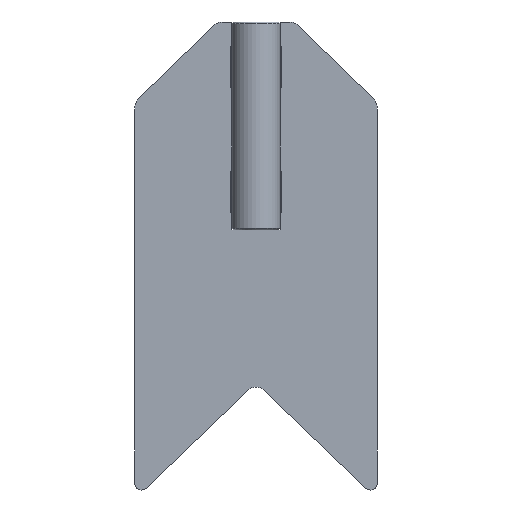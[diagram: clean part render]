
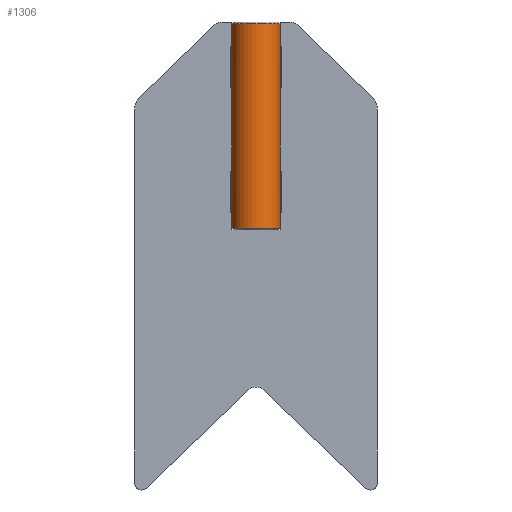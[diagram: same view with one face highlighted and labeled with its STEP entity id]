
A CAD part, left-side view. The second image highlights one B-rep face of the part: STEP entity #1306.
In plain terms, the highlighted cylindrical face has radius 7 mm (diameter 14 mm), a partial arc.
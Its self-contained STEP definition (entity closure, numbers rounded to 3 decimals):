
#34=CYLINDRICAL_SURFACE('',#1420,7.);
#69=CIRCLE('',#1421,7.);
#70=CIRCLE('',#1422,7.);
#71=CIRCLE('',#1423,7.);
#72=CIRCLE('',#1424,7.);
#73=CIRCLE('',#1425,7.);
#74=CIRCLE('',#1426,7.);
#75=CIRCLE('',#1427,7.);
#76=CIRCLE('',#1428,7.);
#77=CIRCLE('',#1429,7.);
#78=CIRCLE('',#1430,7.);
#117=FACE_OUTER_BOUND('',#177,.T.);
#177=EDGE_LOOP('',(#1016,#1017,#1018,#1019,#1020,#1021,#1022,#1023,#1024,
#1025,#1026,#1027,#1028,#1029,#1030,#1031,#1032,#1033,#1034,#1035,#1036,
#1037,#1038,#1039));
#219=LINE('',#1851,#355);
#260=LINE('',#1945,#396);
#307=LINE('',#2059,#443);
#308=LINE('',#2060,#444);
#310=LINE('',#2066,#446);
#311=LINE('',#2067,#447);
#312=LINE('',#2069,#448);
#313=LINE('',#2070,#449);
#315=LINE('',#2076,#451);
#316=LINE('',#2077,#452);
#321=LINE('',#2119,#457);
#322=LINE('',#2124,#458);
#323=LINE('',#2130,#459);
#324=LINE('',#2135,#460);
#355=VECTOR('',#1485,10.);
#396=VECTOR('',#1546,10.);
#443=VECTOR('',#1663,10.);
#444=VECTOR('',#1664,10.);
#446=VECTOR('',#1670,10.);
#447=VECTOR('',#1671,10.);
#448=VECTOR('',#1674,10.);
#449=VECTOR('',#1675,10.);
#451=VECTOR('',#1681,10.);
#452=VECTOR('',#1682,10.);
#457=VECTOR('',#1711,10.);
#458=VECTOR('',#1716,10.);
#459=VECTOR('',#1723,10.);
#460=VECTOR('',#1728,10.);
#481=VERTEX_POINT('',#1829);
#486=VERTEX_POINT('',#1838);
#487=VERTEX_POINT('',#1840);
#488=VERTEX_POINT('',#1842);
#490=VERTEX_POINT('',#1847);
#491=VERTEX_POINT('',#1849);
#528=VERTEX_POINT('',#1928);
#529=VERTEX_POINT('',#1930);
#530=VERTEX_POINT('',#1932);
#531=VERTEX_POINT('',#1934);
#533=VERTEX_POINT('',#1941);
#534=VERTEX_POINT('',#1944);
#535=VERTEX_POINT('',#1948);
#536=VERTEX_POINT('',#1950);
#546=VERTEX_POINT('',#1979);
#548=VERTEX_POINT('',#1985);
#580=VERTEX_POINT('',#2116);
#581=VERTEX_POINT('',#2118);
#582=VERTEX_POINT('',#2121);
#583=VERTEX_POINT('',#2123);
#584=VERTEX_POINT('',#2127);
#585=VERTEX_POINT('',#2129);
#586=VERTEX_POINT('',#2132);
#587=VERTEX_POINT('',#2134);
#607=EDGE_CURVE('',#481,#491,#219,.T.);
#655=EDGE_CURVE('',#534,#528,#260,.T.);
#715=EDGE_CURVE('',#546,#548,#307,.T.);
#716=EDGE_CURVE('',#491,#490,#308,.T.);
#720=EDGE_CURVE('',#488,#481,#310,.T.);
#721=EDGE_CURVE('',#487,#486,#311,.T.);
#723=EDGE_CURVE('',#531,#530,#312,.T.);
#724=EDGE_CURVE('',#529,#528,#313,.T.);
#728=EDGE_CURVE('',#534,#533,#315,.T.);
#729=EDGE_CURVE('',#535,#536,#316,.T.);
#744=EDGE_CURVE('',#536,#548,#69,.T.);
#745=EDGE_CURVE('',#535,#580,#70,.T.);
#746=EDGE_CURVE('',#581,#580,#321,.T.);
#747=EDGE_CURVE('',#581,#533,#71,.T.);
#748=EDGE_CURVE('',#529,#582,#72,.T.);
#749=EDGE_CURVE('',#583,#582,#322,.T.);
#750=EDGE_CURVE('',#583,#530,#73,.T.);
#751=EDGE_CURVE('',#487,#531,#74,.T.);
#752=EDGE_CURVE('',#486,#584,#75,.T.);
#753=EDGE_CURVE('',#585,#584,#323,.T.);
#754=EDGE_CURVE('',#585,#488,#76,.T.);
#755=EDGE_CURVE('',#490,#586,#77,.T.);
#756=EDGE_CURVE('',#587,#586,#324,.T.);
#757=EDGE_CURVE('',#587,#546,#78,.T.);
#1016=ORIENTED_EDGE('',*,*,#715,.T.);
#1017=ORIENTED_EDGE('',*,*,#744,.F.);
#1018=ORIENTED_EDGE('',*,*,#729,.F.);
#1019=ORIENTED_EDGE('',*,*,#745,.T.);
#1020=ORIENTED_EDGE('',*,*,#746,.F.);
#1021=ORIENTED_EDGE('',*,*,#747,.T.);
#1022=ORIENTED_EDGE('',*,*,#728,.F.);
#1023=ORIENTED_EDGE('',*,*,#655,.T.);
#1024=ORIENTED_EDGE('',*,*,#724,.F.);
#1025=ORIENTED_EDGE('',*,*,#748,.T.);
#1026=ORIENTED_EDGE('',*,*,#749,.F.);
#1027=ORIENTED_EDGE('',*,*,#750,.T.);
#1028=ORIENTED_EDGE('',*,*,#723,.F.);
#1029=ORIENTED_EDGE('',*,*,#751,.F.);
#1030=ORIENTED_EDGE('',*,*,#721,.T.);
#1031=ORIENTED_EDGE('',*,*,#752,.T.);
#1032=ORIENTED_EDGE('',*,*,#753,.F.);
#1033=ORIENTED_EDGE('',*,*,#754,.T.);
#1034=ORIENTED_EDGE('',*,*,#720,.T.);
#1035=ORIENTED_EDGE('',*,*,#607,.T.);
#1036=ORIENTED_EDGE('',*,*,#716,.T.);
#1037=ORIENTED_EDGE('',*,*,#755,.T.);
#1038=ORIENTED_EDGE('',*,*,#756,.F.);
#1039=ORIENTED_EDGE('',*,*,#757,.T.);
#1306=ADVANCED_FACE('',(#117),#34,.T.);
#1420=AXIS2_PLACEMENT_3D('',#2114,#1705,#1706);
#1421=AXIS2_PLACEMENT_3D('',#2115,#1707,#1708);
#1422=AXIS2_PLACEMENT_3D('',#2117,#1709,#1710);
#1423=AXIS2_PLACEMENT_3D('',#2120,#1712,#1713);
#1424=AXIS2_PLACEMENT_3D('',#2122,#1714,#1715);
#1425=AXIS2_PLACEMENT_3D('',#2125,#1717,#1718);
#1426=AXIS2_PLACEMENT_3D('',#2126,#1719,#1720);
#1427=AXIS2_PLACEMENT_3D('',#2128,#1721,#1722);
#1428=AXIS2_PLACEMENT_3D('',#2131,#1724,#1725);
#1429=AXIS2_PLACEMENT_3D('',#2133,#1726,#1727);
#1430=AXIS2_PLACEMENT_3D('',#2136,#1729,#1730);
#1485=DIRECTION('',(0.,0.,-1.));
#1546=DIRECTION('',(0.,0.,1.));
#1663=DIRECTION('',(0.,0.,-1.));
#1664=DIRECTION('',(0.,0.,-1.));
#1670=DIRECTION('',(0.,0.,-1.));
#1671=DIRECTION('',(0.,0.,-1.));
#1674=DIRECTION('',(0.,0.,-1.));
#1675=DIRECTION('',(0.,0.,-1.));
#1681=DIRECTION('',(0.,0.,-1.));
#1682=DIRECTION('',(0.,0.,-1.));
#1705=DIRECTION('center_axis',(0.,0.,-1.));
#1706=DIRECTION('ref_axis',(0.,1.,0.));
#1707=DIRECTION('center_axis',(0.,0.,-1.));
#1708=DIRECTION('ref_axis',(0.,-1.,0.));
#1709=DIRECTION('center_axis',(0.,0.,-1.));
#1710=DIRECTION('ref_axis',(0.,1.,0.));
#1711=DIRECTION('',(0.,0.,-1.));
#1712=DIRECTION('center_axis',(0.,0.,1.));
#1713=DIRECTION('ref_axis',(0.,1.,0.));
#1714=DIRECTION('center_axis',(0.,0.,-1.));
#1715=DIRECTION('ref_axis',(0.,1.,0.));
#1716=DIRECTION('',(0.,0.,-1.));
#1717=DIRECTION('center_axis',(0.,0.,1.));
#1718=DIRECTION('ref_axis',(0.,1.,0.));
#1719=DIRECTION('center_axis',(0.,0.,1.));
#1720=DIRECTION('ref_axis',(0.,-1.,0.));
#1721=DIRECTION('center_axis',(0.,0.,1.));
#1722=DIRECTION('ref_axis',(0.,1.,0.));
#1723=DIRECTION('',(0.,0.,1.));
#1724=DIRECTION('center_axis',(0.,0.,-1.));
#1725=DIRECTION('ref_axis',(0.,1.,0.));
#1726=DIRECTION('center_axis',(0.,0.,1.));
#1727=DIRECTION('ref_axis',(0.,1.,0.));
#1728=DIRECTION('',(0.,0.,1.));
#1729=DIRECTION('center_axis',(0.,0.,-1.));
#1730=DIRECTION('ref_axis',(0.,1.,0.));
#1829=CARTESIAN_POINT('',(0.,7.,-13.));
#1838=CARTESIAN_POINT('',(0.,7.,8.));
#1840=CARTESIAN_POINT('',(0.,7.,14.5));
#1842=CARTESIAN_POINT('',(0.,7.,-4.));
#1847=CARTESIAN_POINT('',(0.,7.,-28.));
#1849=CARTESIAN_POINT('',(0.,7.,-25.));
#1851=CARTESIAN_POINT('',(0.,7.,-15.));
#1928=CARTESIAN_POINT('',(0.,-7.,-13.));
#1930=CARTESIAN_POINT('',(0.,-7.,-4.));
#1932=CARTESIAN_POINT('',(0.,-7.,8.));
#1934=CARTESIAN_POINT('',(0.,-7.,14.5));
#1941=CARTESIAN_POINT('',(0.,-7.,-28.));
#1944=CARTESIAN_POINT('',(0.,-7.,-25.));
#1945=CARTESIAN_POINT('',(0.,-7.,-15.));
#1948=CARTESIAN_POINT('',(0.,-7.,-40.));
#1950=CARTESIAN_POINT('',(0.,-7.,-44.5));
#1979=CARTESIAN_POINT('',(0.,7.,-40.));
#1985=CARTESIAN_POINT('',(0.,7.,-44.5));
#2059=CARTESIAN_POINT('',(0.,7.,-15.));
#2060=CARTESIAN_POINT('',(0.,7.,-15.));
#2066=CARTESIAN_POINT('',(0.,7.,-15.));
#2067=CARTESIAN_POINT('',(0.,7.,-15.));
#2069=CARTESIAN_POINT('',(0.,-7.,-15.));
#2070=CARTESIAN_POINT('',(0.,-7.,-15.));
#2076=CARTESIAN_POINT('',(0.,-7.,-15.));
#2077=CARTESIAN_POINT('',(0.,-7.,-15.));
#2114=CARTESIAN_POINT('Origin',(0.,0.,-15.));
#2115=CARTESIAN_POINT('Origin',(0.,0.,-44.5));
#2116=CARTESIAN_POINT('',(-0.928,-6.938,-40.));
#2117=CARTESIAN_POINT('Origin',(0.,0.,-40.));
#2118=CARTESIAN_POINT('',(-0.928,-6.938,-28.));
#2119=CARTESIAN_POINT('',(-0.928,-6.938,-15.));
#2120=CARTESIAN_POINT('Origin',(0.,0.,-28.));
#2121=CARTESIAN_POINT('',(-0.928,-6.938,-4.));
#2122=CARTESIAN_POINT('Origin',(0.,0.,-4.));
#2123=CARTESIAN_POINT('',(-0.928,-6.938,8.));
#2124=CARTESIAN_POINT('',(-0.928,-6.938,-15.));
#2125=CARTESIAN_POINT('Origin',(0.,0.,8.));
#2126=CARTESIAN_POINT('Origin',(0.,0.,14.5));
#2127=CARTESIAN_POINT('',(-0.928,6.938,8.));
#2128=CARTESIAN_POINT('Origin',(0.,0.,8.));
#2129=CARTESIAN_POINT('',(-0.928,6.938,-4.));
#2130=CARTESIAN_POINT('',(-0.928,6.938,-15.));
#2131=CARTESIAN_POINT('Origin',(0.,0.,-4.));
#2132=CARTESIAN_POINT('',(-0.928,6.938,-28.));
#2133=CARTESIAN_POINT('Origin',(0.,0.,-28.));
#2134=CARTESIAN_POINT('',(-0.928,6.938,-40.));
#2135=CARTESIAN_POINT('',(-0.928,6.938,-15.));
#2136=CARTESIAN_POINT('Origin',(0.,0.,-40.));
